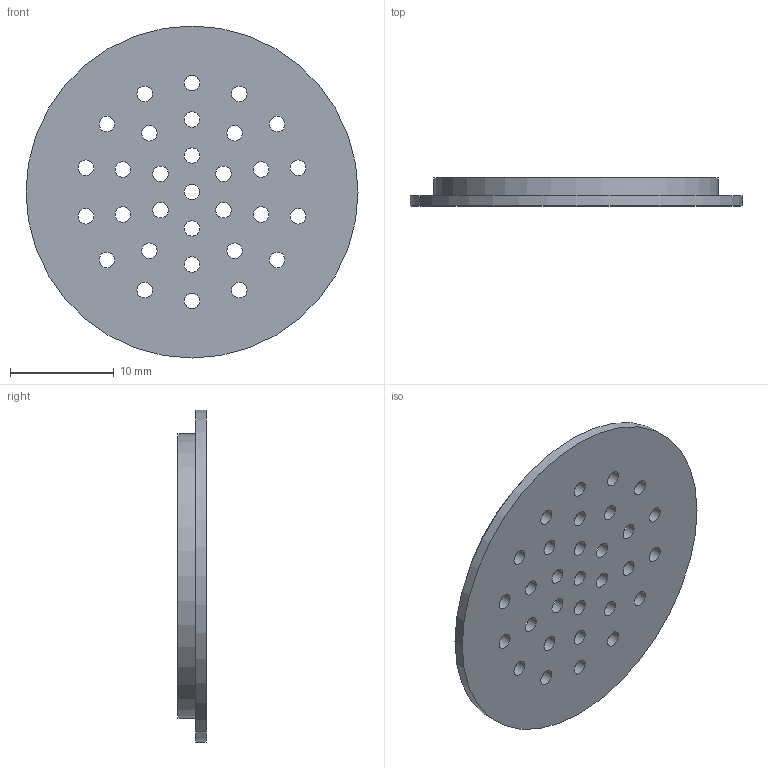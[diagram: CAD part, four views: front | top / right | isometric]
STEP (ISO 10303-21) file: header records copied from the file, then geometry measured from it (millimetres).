
FILE_DESCRIPTION(/* description */ (''),/* implementation_level */ '2;1');
FILE_NAME(/* name */ 'C:\Users\Banwz\Desktop\ВИМ\Агронабор\Агронабор Релиз\Насадки\Лейка\Плоскость с дырками.stp',/* time_stamp */ '2023-05-04T00:16:32+03:00',/* author */ ('Banwz'),/* organization */ (''),/* preprocessor_version */ 'ST-DEVELOPER v18.1',/* originating_system */ 'Autodesk Inventor 2021',/* authorisation */ '');
FILE_SCHEMA (('AUTOMOTIVE_DESIGN { 1 0 10303 214 3 1 1 }'));
Length unit declared in the file: millimetre
Products named in the file (1): Плоскость с 
дырками
Bounding box: 32 x 2.7 x 32 mm (x, y, z)
Volume: 890.5 mm3; surface area: 2027.5 mm2
Topology: 1 solids, 1 shells, 38 faces, 102 edges, 68 vertices
Faces by surface type: cylinder 34, plane 4
Full cylindrical faces by diameter (mm): 1.5 x31, 25.4 x1, 27.4 x1, 32 x1
Entity records: 1399 total; most frequent: DIRECTION 248, CARTESIAN_POINT 209, ORIENTED_EDGE 204, AXIS2_PLACEMENT_3D 107, EDGE_LOOP 102, EDGE_CURVE 102, CIRCLE 68, VERTEX_POINT 68
